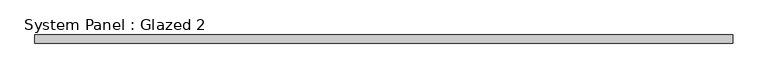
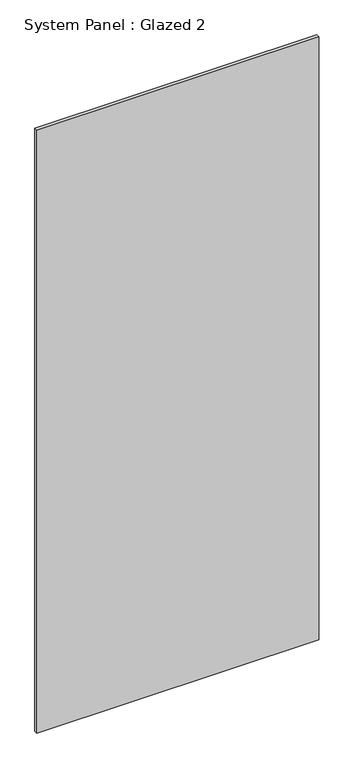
"""IFC4 building model written with IfcOpenShell, lengths in millimetres: plate geometry, System Panel : Glazed 2."""

from ifc_helpers import new_model, si_unit, origin, origin_with_axes, place, context, project, spatial, polyline, outline, extrude, source, transform, mapped, element, save


def system_panel_glazed_2_a4a2e409(model_context):
    return source(origin(), model_context, "Body", "SweptSolid", [
        extrude(outline(polyline([(526.25, -6.35), (-526.25, -6.35), (-526.25, 6.35), (526.25, 6.35), (526.25, -6.35)])), origin_with_axes(), (0.0, 0.0, 1.0), 2380.0),
    ])


if __name__ == "__main__":
    model = new_model("IFC4")
    model_context = context("Model", 3, world=origin())
    ifc_project = project(units=[si_unit("LENGTHUNIT", "METRE", prefix="MILLI")], contexts=[model_context])
    site = spatial("IfcSite", under=ifc_project)
    building = spatial("IfcBuilding", under=site)
    placement = place(None, origin())
    system_panel_glazed_2_shape = system_panel_glazed_2_a4a2e409(model_context)
    element("IfcPlate", 1, ObjectType="System Panel : Glazed 2", at=placement, inside=building, context=model_context, shape_type="MappedRepresentation", body=[
        mapped(system_panel_glazed_2_shape, transform((0.0, 0.0, 0.0), x_axis=(1.0, 0.0, 0.0), y_axis=(0.0, 1.0, 0.0), z_axis=(0.0, 0.0, 1.0))),
    ])
    save(model, "model.ifc")
